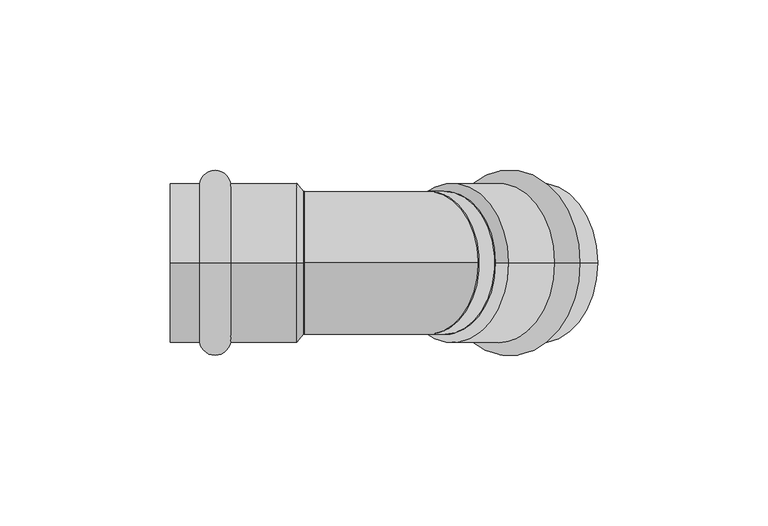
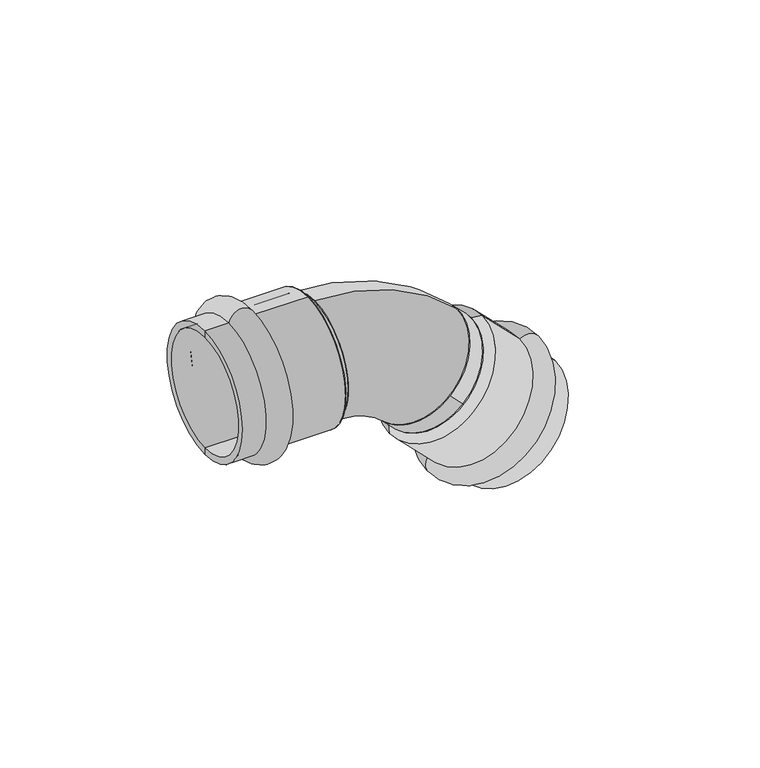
"""IFC4 building model written with IfcOpenShell, lengths in millimetres: pipe fitting geometry, VALTEC_VTi.959.I_Угольник 45° (раструб–раструб) нержавеющая сталь : Тип 1."""

from ifc_helpers import new_model, si_unit, point, frame, frame_2d, origin, origin_2d, place, context, project, spatial, polyline, circle_curve, ellipse_curve, trimmed, segment, composite_curve, outline, extrude, source, transform, mapped, element, save
from ifc_brep_helpers import plane_surface, cylinder_surface, revolved_surface, advanced_brep


def pipe_fitting_9f583cc3(model_context):
    return source(origin(), model_context, "Body", "SolidModel", [
        advanced_brep(
        [(-2.25, 0.0, 23.35), (-2.25, 0.0, -23.35), (-0.25, 0.0, 21.0), (-0.25, 0.0, -21.0)],
        [
            (0, 1, circle_curve(frame((-2.25, 0.0, 0.0), z_axis=(-1.0, 0.0, 0.0), x_axis=(0.0, 0.0, 1.0)), 23.35)),
            (1, 0, circle_curve(frame((-2.25, 0.0, 0.0), z_axis=(-1.0, 0.0, 0.0), x_axis=(0.0, 0.0, -1.0)), 23.35)),
            (2, 3, circle_curve(frame((-0.25, 0.0, 0.0), z_axis=(1.0, 0.0, 0.0), x_axis=(0.0, 0.0, -1.0)), 21.0)),
            (3, 2, circle_curve(frame((-0.25, 0.0, 0.0), z_axis=(1.0, 0.0, 0.0), x_axis=(0.0, 0.0, 1.0)), 21.0)),
            (3, 1),
            (0, 2),
        ],
        [
            plane_surface(frame((-2.25, 0.0, 0.0), z_axis=(-1.0, 0.0, 0.0), x_axis=(0.0, 1.0, 0.0))),
            plane_surface(frame((-0.25, 0.0, 0.0), z_axis=(1.0, 0.0, 0.0), x_axis=(0.0, 1.0, 0.0))),
            revolved_surface(polyline([(-0.25, 0.0, -20.99999999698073), (-2.25, 0.0, -23.35)]), (17.6223404, 0.0, 0.0), (-1.0, 0.0, 0.0)),
            revolved_surface(polyline([(-0.25, 0.0, 20.99999999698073), (-2.25, 0.0, 23.35)]), (17.6223404, 0.0, 0.0), (-1.0, 0.0, 0.0)),
        ],
        [
            (0, [[1, 2]]),
            (1, [[3, 4]]),
            (2, [[-4, 5, -1, 6]]),
            (3, [[-3, -6, -2, -5]]),
        ],
    ),
        advanced_brep(
        [(26.8290458, 0.0, -38.518934), (59.8509324, 0.0, -5.4970473), (26.3694264, 0.0, -34.7359127), (56.0679112, 0.0, -5.0374279)],
        [
            (0, 1, circle_curve(frame((43.3399891, 0.0, -22.0079906), z_axis=(0.7071067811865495, 0.0, -0.7071067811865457), x_axis=(-0.7071067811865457, 0.0, -0.7071067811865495)), 23.35)),
            (1, 0, circle_curve(frame((43.3399891, 0.0, -22.0079906), z_axis=(0.7071067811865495, 0.0, -0.7071067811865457), x_axis=(0.7071067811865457, 0.0, 0.7071067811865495)), 23.35)),
            (2, 3, circle_curve(frame((41.2186688, 0.0, -19.8866703), z_axis=(-0.7071067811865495, 0.0, 0.7071067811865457), x_axis=(0.7071067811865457, 0.0, 0.7071067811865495)), 21.0)),
            (3, 2, circle_curve(frame((41.2186688, 0.0, -19.8866703), z_axis=(-0.7071067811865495, 0.0, 0.7071067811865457), x_axis=(-0.7071067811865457, 0.0, -0.7071067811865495)), 21.0)),
            (3, 1),
            (0, 2),
        ],
        [
            plane_surface(frame((43.3399891, 0.0, -22.0079906), z_axis=(0.7071067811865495, 0.0, -0.7071067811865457), x_axis=(0.0, 1.0, 0.0))),
            plane_surface(frame((41.2186688, 0.0, -19.8866703), z_axis=(-0.7071067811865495, 0.0, 0.7071067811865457), x_axis=(0.0, 1.0, 0.0))),
            revolved_surface(polyline([(56.067911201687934, 0.0, -5.037427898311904), (59.85093248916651, 0.0, -5.497047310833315)]), (22.2621891, 0.0, -0.9301906), (0.7071067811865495, 0.0, -0.7071067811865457)),
            revolved_surface(polyline([(26.36942638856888, 0.0, -34.73591271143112), (26.8290458, 0.0, -38.518934)]), (22.2621891, 0.0, -0.9301906), (0.7071067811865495, 0.0, -0.7071067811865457)),
        ],
        [
            (0, [[1, 2]]),
            (1, [[3, 4]]),
            (2, [[-4, 5, -1, 6]]),
            (3, [[-3, -6, -2, -5]]),
        ],
    ),
        advanced_brep(
        [(-30.6964272, 0.0, -23.35), (-30.6964272, 0.0, 23.35), (-21.6035728, 0.0, 23.35), (-21.6035728, 0.0, -23.35), (-39.25, 0.0, -23.35), (-39.25, 0.0, 23.35), (-39.25, 0.0, -21.0), (-39.25, 0.0, 21.0), (-2.25, 0.0, -21.0), (-2.25, 0.0, 21.0), (-2.25, 0.0, -23.35), (-2.25, 0.0, 23.35)],
        [
            (0, 1, circle_curve(frame((-30.6964272, 0.0, 0.0), z_axis=(1.0, 0.0, 0.0), x_axis=(0.0, 0.0, 1.0)), 23.35)),
            (1, 2, circle_curve(frame((-26.15, 0.0, 22.65), z_axis=(0.0, 1.0, 0.0), x_axis=(1.0, 0.0, 0.0)), 4.6)),
            (2, 3, circle_curve(frame((-21.6035728, 0.0, 0.0), z_axis=(-1.0, 0.0, 0.0), x_axis=(0.0, 0.0, 1.0)), 23.35)),
            (3, 0, circle_curve(frame((-26.15, 0.0, -22.65), z_axis=(0.0, 1.0, 0.0), x_axis=(1.0, 0.0, 0.0)), 4.6)),
            (1, 0, circle_curve(frame((-30.6964272, 0.0, 0.0), z_axis=(1.0, 0.0, 0.0), x_axis=(0.0, 0.0, 1.0)), 23.35)),
            (3, 2, circle_curve(frame((-21.6035728, 0.0, 0.0), z_axis=(-1.0, 0.0, 0.0), x_axis=(0.0, 0.0, 1.0)), 23.35)),
            (4, 5, circle_curve(frame((-39.25, 0.0, 0.0), z_axis=(1.0, 0.0, 0.0), x_axis=(0.0, 0.0, 1.0)), 23.35)),
            (5, 1),
            (0, 4),
            (5, 4, circle_curve(frame((-39.25, 0.0, 0.0), z_axis=(1.0, 0.0, 0.0), x_axis=(0.0, 0.0, 1.0)), 23.35)),
            (6, 7, circle_curve(frame((-39.25, 0.0, 0.0), z_axis=(1.0, 0.0, 0.0), x_axis=(0.0, 0.0, 1.0)), 21.0)),
            (7, 5),
            (4, 6),
            (7, 6, circle_curve(frame((-39.25, 0.0, 0.0), z_axis=(1.0, 0.0, 0.0), x_axis=(0.0, 0.0, 1.0)), 21.0)),
            (8, 9, circle_curve(frame((-2.25, 0.0, 0.0), z_axis=(1.0, 0.0, 0.0), x_axis=(0.0, 0.0, 1.0)), 21.0)),
            (9, 7),
            (6, 8),
            (9, 8, circle_curve(frame((-2.25, 0.0, 0.0), z_axis=(1.0, 0.0, 0.0), x_axis=(0.0, 0.0, 1.0)), 21.0)),
            (10, 11, circle_curve(frame((-2.25, 0.0, 0.0), z_axis=(1.0, 0.0, 0.0), x_axis=(0.0, 0.0, 1.0)), 23.35)),
            (11, 9),
            (8, 10),
            (11, 10, circle_curve(frame((-2.25, 0.0, 0.0), z_axis=(1.0, 0.0, 0.0), x_axis=(0.0, 0.0, 1.0)), 23.35)),
            (2, 11),
            (10, 3),
        ],
        [
            revolved_surface(trimmed(ellipse_curve(frame((-26.15, 0.0, 22.65), z_axis=(0.0, -1.0, 0.0), x_axis=(1.0, 0.0, 0.0)), 4.6, 4.6), [point((-21.6035728, 0.0, 23.35))], [point((-30.6964272, 0.0, 23.35))], True, "CARTESIAN"), (-42.7864426, 0.0, 0.0), (-1.0, 0.0, 0.0)),
            cylinder_surface(frame((-42.7864426, 0.0, 0.0), z_axis=(-1.0, 0.0, 0.0), x_axis=(0.0, 0.0, 1.0)), 23.35),
            plane_surface(frame((-39.25, 0.0, 0.0), z_axis=(-1.0, 0.0, 0.0), x_axis=(0.0, 0.0, 1.0))),
            revolved_surface(polyline([(-39.25, 0.0, 21.0), (-2.25, 0.0, 21.0)]), (-42.7864426, 0.0, 0.0), (-1.0, 0.0, 0.0)),
            plane_surface(frame((-2.25, 0.0, 0.0), z_axis=(1.0, 0.0, 0.0), x_axis=(0.0, 0.0, 1.0))),
        ],
        [
            (0, [[1, 2, 3, 4]]),
            (0, [[5, -4, 6, -2]]),
            (1, [[7, 8, -1, 9]]),
            (1, [[10, -9, -5, -8]]),
            (2, [[11, 12, -7, 13]]),
            (2, [[14, -13, -10, -12]]),
            (3, [[15, 16, -11, 17]]),
            (3, [[18, -17, -14, -16]]),
            (4, [[19, 20, -15, 21]]),
            (4, [[22, -21, -18, -20]]),
            (1, [[-3, 23, -19, 24]]),
            (1, [[-6, -24, -22, -23]]),
        ],
    ),
        advanced_brep(
        [(79.965594, 0.0, -25.6117089), (46.9437073, 0.0, -58.6335955), (40.5140884, 0.0, -52.2039766), (73.535975, 0.0, -19.1820899), (86.0138833, 0.0, -31.6599982), (52.9919967, 0.0, -64.6818849), (84.3521824, 0.0, -33.3216991), (54.6536976, 0.0, -63.020184), (58.1892315, 0.0, -7.1587482), (28.4907467, 0.0, -36.857233), (59.8509324, 0.0, -5.4970473), (26.8290458, 0.0, -38.518934)],
        [
            (0, 1, circle_curve(frame((63.4546507, 0.0, -42.1226522), z_axis=(-0.7071067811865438, 0.0, 0.7071067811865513), x_axis=(-0.7071067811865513, 0.0, -0.7071067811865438)), 23.35)),
            (1, 2, circle_curve(frame((44.2238726, 0.0, -54.9238113), z_axis=(0.0, 1.0, 0.0), x_axis=(-0.7071067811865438, 0.0, 0.7071067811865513)), 4.6)),
            (2, 3, circle_curve(frame((57.0250317, 0.0, -35.6930332), z_axis=(0.7071067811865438, 0.0, -0.7071067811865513), x_axis=(-0.7071067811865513, 0.0, -0.7071067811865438)), 23.35)),
            (3, 0, circle_curve(frame((76.2558098, 0.0, -22.8918741), z_axis=(0.0, 1.0, 0.0), x_axis=(-0.7071067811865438, 0.0, 0.7071067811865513)), 4.6)),
            (1, 0, circle_curve(frame((63.4546507, 0.0, -42.1226522), z_axis=(-0.7071067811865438, 0.0, 0.7071067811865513), x_axis=(-0.7071067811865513, 0.0, -0.7071067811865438)), 23.35)),
            (3, 2, circle_curve(frame((57.0250317, 0.0, -35.6930332), z_axis=(0.7071067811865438, 0.0, -0.7071067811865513), x_axis=(-0.7071067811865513, 0.0, -0.7071067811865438)), 23.35)),
            (4, 5, circle_curve(frame((69.50294, 0.0, -48.1709415), z_axis=(-0.7071067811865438, 0.0, 0.7071067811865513), x_axis=(-0.7071067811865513, 0.0, -0.7071067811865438)), 23.35)),
            (5, 1),
            (0, 4),
            (5, 4, circle_curve(frame((69.50294, 0.0, -48.1709415), z_axis=(-0.7071067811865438, 0.0, 0.7071067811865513), x_axis=(-0.7071067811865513, 0.0, -0.7071067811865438)), 23.35)),
            (6, 7, circle_curve(frame((69.50294, 0.0, -48.1709415), z_axis=(-0.7071067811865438, 0.0, 0.7071067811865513), x_axis=(-0.7071067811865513, 0.0, -0.7071067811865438)), 21.0)),
            (7, 5),
            (4, 6),
            (7, 6, circle_curve(frame((69.50294, 0.0, -48.1709415), z_axis=(-0.7071067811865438, 0.0, 0.7071067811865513), x_axis=(-0.7071067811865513, 0.0, -0.7071067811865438)), 21.0)),
            (8, 9, circle_curve(frame((43.3399891, 0.0, -22.0079906), z_axis=(-0.7071067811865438, 0.0, 0.7071067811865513), x_axis=(-0.7071067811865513, 0.0, -0.7071067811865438)), 21.0)),
            (9, 7),
            (6, 8),
            (9, 8, circle_curve(frame((43.3399891, 0.0, -22.0079906), z_axis=(-0.7071067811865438, 0.0, 0.7071067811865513), x_axis=(-0.7071067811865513, 0.0, -0.7071067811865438)), 21.0)),
            (10, 11, circle_curve(frame((43.3399891, 0.0, -22.0079906), z_axis=(-0.7071067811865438, 0.0, 0.7071067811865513), x_axis=(-0.7071067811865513, 0.0, -0.7071067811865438)), 23.35)),
            (11, 9),
            (8, 10),
            (11, 10, circle_curve(frame((43.3399891, 0.0, -22.0079906), z_axis=(-0.7071067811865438, 0.0, 0.7071067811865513), x_axis=(-0.7071067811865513, 0.0, -0.7071067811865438)), 23.35)),
            (2, 11),
            (10, 3),
        ],
        [
            revolved_surface(trimmed(ellipse_curve(frame((44.2238726, 0.0, -54.9238113), z_axis=(0.0, -1.0, 0.0), x_axis=(-0.7071067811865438, 0.0, 0.7071067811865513)), 4.6, 4.6), [point((40.5140884, 0.0, -52.2039766))], [point((46.9437073, 0.0, -58.6335955))], True, "CARTESIAN"), (72.0035826, 0.0, -50.6715841), (0.7071067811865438, 0.0, -0.7071067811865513)),
            cylinder_surface(frame((72.0035826, 0.0, -50.6715841), z_axis=(0.7071067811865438, 0.0, -0.7071067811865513), x_axis=(-0.7071067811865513, 0.0, -0.7071067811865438)), 23.35),
            plane_surface(frame((69.50294, 0.0, -48.1709415), z_axis=(0.7071067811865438, 0.0, -0.7071067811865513), x_axis=(-0.7071067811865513, 0.0, -0.7071067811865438))),
            revolved_surface(polyline([(54.653697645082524, 0.0, -63.02018395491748), (28.490746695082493, 0.0, -36.85723300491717)]), (72.0035826, 0.0, -50.6715841), (0.7071067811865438, 0.0, -0.7071067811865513)),
            plane_surface(frame((43.3399891, 0.0, -22.0079906), z_axis=(-0.7071067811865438, 0.0, 0.7071067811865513), x_axis=(-0.7071067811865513, 0.0, -0.7071067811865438))),
        ],
        [
            (0, [[1, 2, 3, 4]]),
            (0, [[5, -4, 6, -2]]),
            (1, [[7, 8, -1, 9]]),
            (1, [[10, -9, -5, -8]]),
            (2, [[11, 12, -7, 13]]),
            (2, [[14, -13, -10, -12]]),
            (3, [[15, 16, -11, 17]]),
            (3, [[18, -17, -14, -16]]),
            (4, [[19, 20, -15, 21]]),
            (4, [[22, -21, -18, -20]]),
            (1, [[-3, 23, -19, 24]]),
            (1, [[-6, -24, -22, -23]]),
        ],
    ),
        extrude(outline(composite_curve([segment(trimmed(circle_curve(origin_2d(), 21.0), [point((-21.0, 0.0))], [point((21.0, 0.0))], False, "CARTESIAN"), True, "CONTINUOUS"), segment(trimmed(circle_curve(origin_2d(), 21.0), [point((21.0, 0.0))], [point((-21.0, 0.0))], False, "CARTESIAN"), True, "CONTINUOUS")], self_intersect=False)), frame((-0.25, 0.0, 0.0), z_axis=(1.0, 0.0, 0.0), x_axis=(0.0, 1.0, 0.0)), (0.0, 0.0, 1.0), 0.25),
        extrude(outline(composite_curve([segment(trimmed(circle_curve(frame_2d((0.0, -21.0)), 21.0), [point((0.0, -42.0))], [point((0.0, 0.0))], False, "CARTESIAN"), True, "CONTINUOUS"), segment(trimmed(circle_curve(frame_2d((0.0, -21.0)), 21.0), [point((0.0, 0.0))], [point((0.0, -42.0))], False, "CARTESIAN"), True, "CONTINUOUS")], self_intersect=False)), frame((41.2186688, -21.0, -19.8866703), z_axis=(-0.7071067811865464, 0.0, 0.7071067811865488), x_axis=(-0.7071067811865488, 0.0, -0.7071067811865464)), (0.0, 0.0, 1.0), 6.7920004),
        advanced_brep(
        [(0.0, 0.0, -21.0), (0.0, 0.0, 21.0), (21.5667568, 0.0, -29.9332432), (51.2652416, 0.0, -0.2347584)],
        [
            (0, 1, circle_curve(frame((0.0, 0.0, 0.0), z_axis=(-1.0, 0.0, 0.0), x_axis=(0.0, 0.0, 1.0)), 21.0)),
            (1, 0, circle_curve(frame((0.0, 0.0, 0.0), z_axis=(-1.0, 0.0, 0.0), x_axis=(0.0, 0.0, 1.0)), 21.0)),
            (2, 3, circle_curve(frame((36.4159992, 0.0, -15.0840008), z_axis=(0.7071067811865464, 0.0, -0.7071067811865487), x_axis=(0.7071067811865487, 0.0, 0.7071067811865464)), 21.0)),
            (3, 2, circle_curve(frame((36.4159992, 0.0, -15.0840008), z_axis=(0.7071067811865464, 0.0, -0.7071067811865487), x_axis=(0.7071067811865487, 0.0, 0.7071067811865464)), 21.0)),
            (3, 1, circle_curve(frame((0.0, 0.0, -51.5), z_axis=(0.0, -1.0, 0.0), x_axis=(0.0, 0.0, 1.0)), 72.5)),
            (0, 2, circle_curve(frame((0.0, 0.0, -51.5), z_axis=(0.0, 1.0, 0.0), x_axis=(0.0, 0.0, 1.0)), 30.5)),
        ],
        [
            plane_surface(frame((0.0, 0.0, 0.0), z_axis=(-1.0, 0.0, 0.0), x_axis=(0.0, -1.0, 0.0))),
            plane_surface(frame((36.4159992, 0.0, -15.0840008), z_axis=(0.7071067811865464, 0.0, -0.7071067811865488), x_axis=(0.0, -1.0, 0.0))),
            revolved_surface(trimmed(ellipse_curve(frame((0.0, 0.0, 0.0), z_axis=(-1.0, 0.0, 0.0), x_axis=(0.0, 0.0, 1.0)), 21.0, 21.0), [point((0.0, 0.0, -21.0))], [point((0.0, 0.0, 21.0))], True, "CARTESIAN"), (0.0, 0.0, -51.5), (0.0, 1.0, 0.0)),
            revolved_surface(trimmed(ellipse_curve(frame((0.0, 0.0, 0.0), z_axis=(-1.0, 0.0, 0.0), x_axis=(0.0, 0.0, 1.0)), 21.0, 21.0), [point((0.0, 0.0, 21.0))], [point((0.0, 0.0, -21.0))], True, "CARTESIAN"), (0.0, 0.0, -51.5), (0.0, 1.0, 0.0)),
        ],
        [
            (0, [[1, 2]]),
            (1, [[3, 4]]),
            (2, [[5, -1, 6, -4]]),
            (3, [[-6, -2, -5, -3]]),
        ],
    ),
    ])


if __name__ == "__main__":
    model = new_model("IFC4")
    model_context = context("Model", 3, world=origin())
    ifc_project = project(units=[si_unit("LENGTHUNIT", "METRE", prefix="MILLI")], contexts=[model_context])
    site = spatial("IfcSite", under=ifc_project)
    building = spatial("IfcBuilding", under=site)
    placement = place(None, origin())
    pipe_fitting_shape = pipe_fitting_9f583cc3(model_context)
    element("IfcPipeFitting", 1, ObjectType="VALTEC_VTi.959.I_Угольник 45° (раструб–раструб) нержавеющая сталь : Тип 1", at=placement, inside=building, context=model_context, shape_type="MappedRepresentation", body=[
        mapped(pipe_fitting_shape, transform((0.0, 0.0, 0.0), x_axis=(1.0, 0.0, 0.0), y_axis=(0.0, 1.0, 0.0), z_axis=(0.0, 0.0, 1.0))),
    ])
    save(model, "model.ifc")
